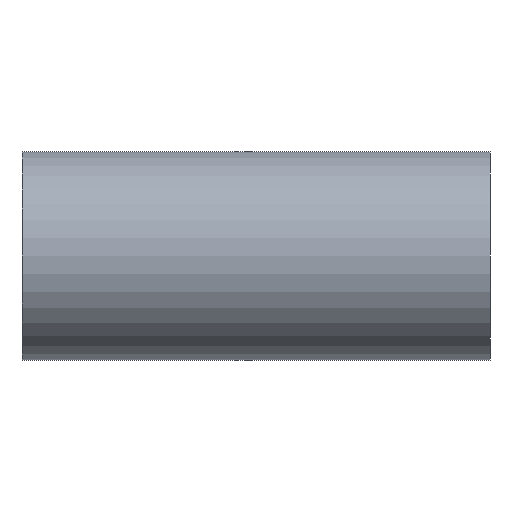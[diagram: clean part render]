
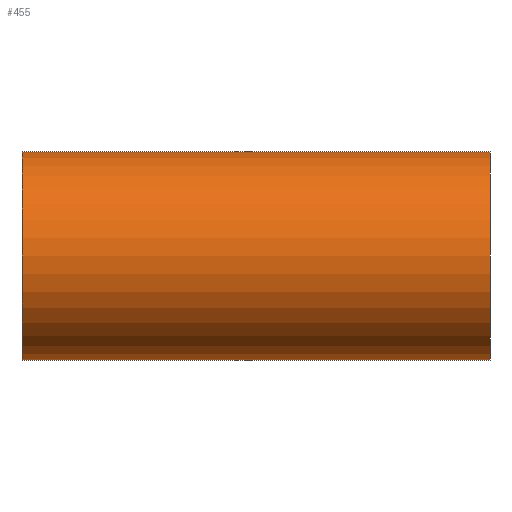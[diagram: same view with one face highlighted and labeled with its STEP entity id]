
A CAD part, front view. The second image highlights one B-rep face of the part: STEP entity #455.
In plain terms, the highlighted cylindrical face has radius 76.2 mm (diameter 152.4 mm), a partial arc.
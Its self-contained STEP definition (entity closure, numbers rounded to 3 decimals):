
#17 = AXIS2_PLACEMENT_3D ( 'NONE', #82, #72, #115 ) ;
#72 = DIRECTION ( 'NONE',  ( -1., 0., 0. ) ) ;
#82 = CARTESIAN_POINT ( 'NONE',  ( 386.526, 0., 0. ) ) ;
#88 = DIRECTION ( 'NONE',  ( -1., 0., 0. ) ) ;
#98 = CARTESIAN_POINT ( 'NONE',  ( 386.526, 0., -76.2 ) ) ;
#103 = CARTESIAN_POINT ( 'NONE',  ( 171., 0., 76.2 ) ) ;
#113 = VERTEX_POINT ( 'NONE', #469 ) ;
#115 = DIRECTION ( 'NONE',  ( 0., 0., 1. ) ) ;
#119 = EDGE_CURVE ( 'NONE', #113, #384, #438, .T. ) ;
#138 = CARTESIAN_POINT ( 'NONE',  ( -171., 0., -76.2 ) ) ;
#206 = CARTESIAN_POINT ( 'NONE',  ( -171., 0., 76.2 ) ) ;
#213 = VECTOR ( 'NONE', #88, 1000. ) ;
#220 = EDGE_CURVE ( 'NONE', #384, #275, #487, .T. ) ;
#229 = CYLINDRICAL_SURFACE ( 'NONE', #17, 76.2 ) ;
#258 = EDGE_LOOP ( 'NONE', ( #368, #366, #315, #409 ) ) ;
#275 = VERTEX_POINT ( 'NONE', #206 ) ;
#315 = ORIENTED_EDGE ( 'NONE', *, *, #220, .T. ) ;
#339 = VERTEX_POINT ( 'NONE', #138 ) ;
#366 = ORIENTED_EDGE ( 'NONE', *, *, #119, .T. ) ;
#367 = AXIS2_PLACEMENT_3D ( 'NONE', #426, #434, #450 ) ;
#368 = ORIENTED_EDGE ( 'NONE', *, *, #383, .F. ) ;
#375 = CARTESIAN_POINT ( 'NONE',  ( 171., 0., 0. ) ) ;
#380 = DIRECTION ( 'NONE',  ( 0., 0., 1. ) ) ;
#381 = DIRECTION ( 'NONE',  ( -1., 0., 0. ) ) ;
#383 = EDGE_CURVE ( 'NONE', #113, #339, #513, .T. ) ;
#384 = VERTEX_POINT ( 'NONE', #103 ) ;
#393 = CIRCLE ( 'NONE', #367, 76.2 ) ;
#397 = DIRECTION ( 'NONE',  ( -1., 0., 0. ) ) ;
#398 = CARTESIAN_POINT ( 'NONE',  ( 386.526, 0., 76.2 ) ) ;
#409 = ORIENTED_EDGE ( 'NONE', *, *, #535, .T. ) ;
#426 = CARTESIAN_POINT ( 'NONE',  ( -171., 0., 0. ) ) ;
#434 = DIRECTION ( 'NONE',  ( 1., 0., 0. ) ) ;
#438 = CIRCLE ( 'NONE', #494, 76.2 ) ;
#450 = DIRECTION ( 'NONE',  ( 0., 0., 1. ) ) ;
#455 = ADVANCED_FACE ( 'NONE', ( #541 ), #229, .T. ) ;
#469 = CARTESIAN_POINT ( 'NONE',  ( 171., 0., -76.2 ) ) ;
#484 = VECTOR ( 'NONE', #397, 1000. ) ;
#487 = LINE ( 'NONE', #398, #484 ) ;
#494 = AXIS2_PLACEMENT_3D ( 'NONE', #375, #381, #380 ) ;
#513 = LINE ( 'NONE', #98, #213 ) ;
#535 = EDGE_CURVE ( 'NONE', #275, #339, #393, .T. ) ;
#541 = FACE_OUTER_BOUND ( 'NONE', #258, .T. ) ;
